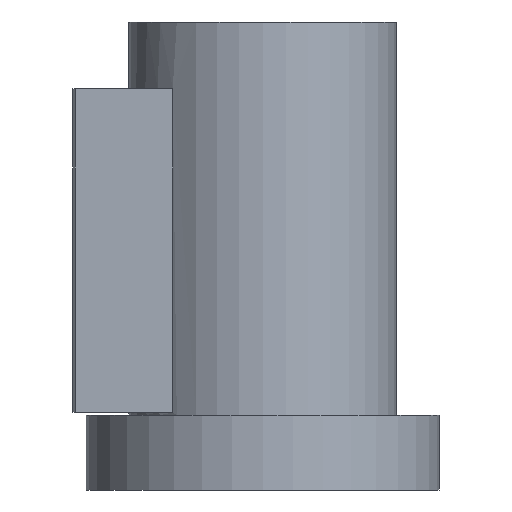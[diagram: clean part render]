
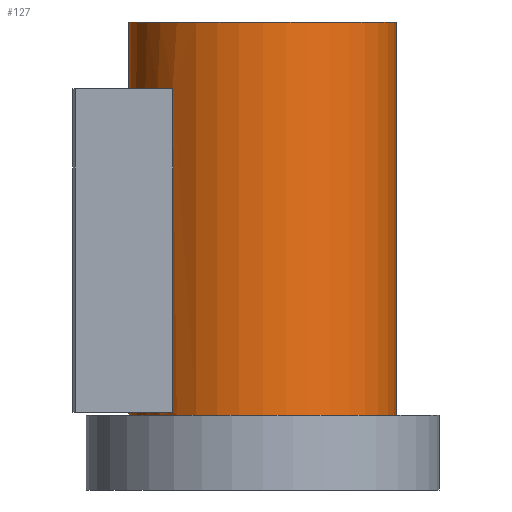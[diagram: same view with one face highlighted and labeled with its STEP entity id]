
A CAD part, front view. The second image highlights one B-rep face of the part: STEP entity #127.
In plain terms, the highlighted cylindrical face has radius 50 mm (diameter 100 mm), a full revolution.
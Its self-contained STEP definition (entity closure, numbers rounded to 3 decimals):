
#127=ADVANCED_FACE('',(#200,#201,#202),#155,.T.);
#155=CYLINDRICAL_SURFACE('',#508,50.);
#168=LINE('',#698,#184);
#169=LINE('',#702,#185);
#184=VECTOR('',#568,1.);
#185=VECTOR('',#571,1.);
#200=FACE_BOUND('',#245,.T.);
#201=FACE_BOUND('',#246,.T.);
#202=FACE_BOUND('',#247,.T.);
#245=EDGE_LOOP('',(#305));
#246=EDGE_LOOP('',(#306));
#247=EDGE_LOOP('',(#307,#308,#309,#310));
#305=ORIENTED_EDGE('',*,*,#431,.F.);
#306=ORIENTED_EDGE('',*,*,#432,.T.);
#307=ORIENTED_EDGE('',*,*,#433,.F.);
#308=ORIENTED_EDGE('',*,*,#434,.F.);
#309=ORIENTED_EDGE('',*,*,#435,.T.);
#310=ORIENTED_EDGE('',*,*,#436,.F.);
#393=VERTEX_POINT('',#692);
#394=VERTEX_POINT('',#694);
#395=VERTEX_POINT('',#696);
#396=VERTEX_POINT('',#697);
#397=VERTEX_POINT('',#699);
#398=VERTEX_POINT('',#701);
#431=EDGE_CURVE('',#393,#393,#475,.T.);
#432=EDGE_CURVE('',#394,#394,#476,.T.);
#433=EDGE_CURVE('',#395,#396,#477,.T.);
#434=EDGE_CURVE('',#397,#395,#168,.T.);
#435=EDGE_CURVE('',#397,#398,#478,.T.);
#436=EDGE_CURVE('',#396,#398,#169,.T.);
#475=CIRCLE('',#504,50.);
#476=CIRCLE('',#505,50.);
#477=CIRCLE('',#506,50.);
#478=CIRCLE('',#507,50.);
#504=AXIS2_PLACEMENT_3D('',#691,#562,#563);
#505=AXIS2_PLACEMENT_3D('',#693,#564,#565);
#506=AXIS2_PLACEMENT_3D('',#695,#566,#567);
#507=AXIS2_PLACEMENT_3D('',#700,#569,#570);
#508=AXIS2_PLACEMENT_3D('',#703,#572,#573);
#562=DIRECTION('',(0.,0.,1.));
#563=DIRECTION('',(1.,0.,0.));
#564=DIRECTION('',(0.,0.,1.));
#565=DIRECTION('',(1.,0.,0.));
#566=DIRECTION('',(0.,0.,-1.));
#567=DIRECTION('',(-1.,0.,0.));
#568=DIRECTION('',(0.,0.,1.));
#569=DIRECTION('',(0.,0.,-1.));
#570=DIRECTION('',(-1.,0.,0.));
#571=DIRECTION('',(0.,0.,-1.));
#572=DIRECTION('',(0.,0.,-1.));
#573=DIRECTION('',(-1.,0.,0.));
#691=CARTESIAN_POINT('',(0.,0.,175.));
#692=CARTESIAN_POINT('',(50.,0.,175.));
#693=CARTESIAN_POINT('',(0.,0.,28.));
#694=CARTESIAN_POINT('',(50.,0.,28.));
#695=CARTESIAN_POINT('',(0.,0.,150.));
#696=CARTESIAN_POINT('',(-33.63,-37.,150.));
#697=CARTESIAN_POINT('',(-33.63,37.,150.));
#698=CARTESIAN_POINT('',(-33.63,-37.,175.));
#699=CARTESIAN_POINT('',(-33.63,-37.,29.));
#700=CARTESIAN_POINT('',(0.,0.,29.));
#701=CARTESIAN_POINT('',(-33.63,37.,29.));
#702=CARTESIAN_POINT('',(-33.63,37.,175.));
#703=CARTESIAN_POINT('',(0.,0.,175.));
